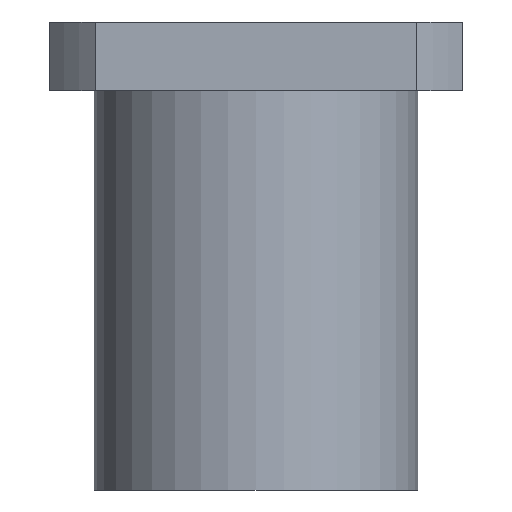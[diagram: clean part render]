
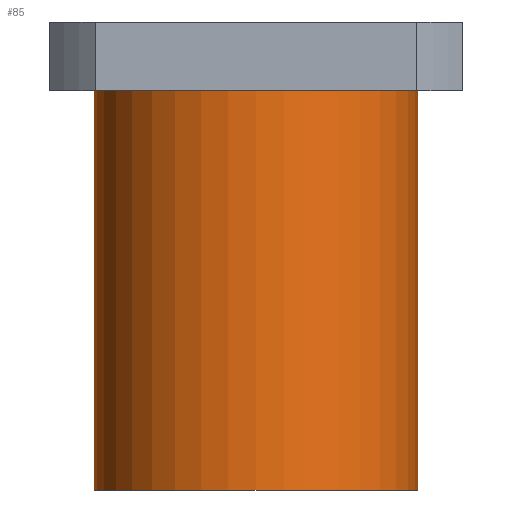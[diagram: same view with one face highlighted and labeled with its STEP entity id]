
A CAD part, front view. The second image highlights one B-rep face of the part: STEP entity #85.
In plain terms, the highlighted cylindrical face has radius 23.5 mm (diameter 47 mm), a partial arc.
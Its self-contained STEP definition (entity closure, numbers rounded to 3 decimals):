
#44=CARTESIAN_POINT('',(0.0,0.0,0.0));
#45=DIRECTION('',(0.0,0.0,1.0));
#46=DIRECTION('',(-1.0,0.0,0.0));
#47=AXIS2_PLACEMENT_3D('',#44,#45,#46);
#48=CYLINDRICAL_SURFACE('',#47,23.5);
#49=CARTESIAN_POINT('',(-23.5,0.,0.0));
#50=VERTEX_POINT('',#49);
#51=CARTESIAN_POINT('',(-23.5,0.,58.0));
#52=VERTEX_POINT('',#51);
#53=CARTESIAN_POINT('',(-23.5,0.,0.0));
#54=DIRECTION('',(0.0,0.0,1.0));
#55=VECTOR('',#54,58.0);
#56=LINE('',#53,#55);
#57=EDGE_CURVE('',#50,#52,#56,.T.);
#58=ORIENTED_EDGE('',*,*,#57,.F.);
#59=CARTESIAN_POINT('',(23.5,0.,0.0));
#60=VERTEX_POINT('',#59);
#61=CARTESIAN_POINT('',(0.0,0.0,0.0));
#62=DIRECTION('',(0.0,0.0,-1.0));
#63=DIRECTION('',(-1.0,0.0,0.0));
#64=AXIS2_PLACEMENT_3D('',#61,#62,#63);
#65=CIRCLE('',#64,23.5);
#66=EDGE_CURVE('',#60,#50,#65,.T.);
#67=ORIENTED_EDGE('',*,*,#66,.F.);
#68=CARTESIAN_POINT('',(23.5,0.,58.));
#69=VERTEX_POINT('',#68);
#70=CARTESIAN_POINT('',(23.5,0.,58.));
#71=DIRECTION('',(0.0,0.0,-1.0));
#72=VECTOR('',#71,58.);
#73=LINE('',#70,#72);
#74=EDGE_CURVE('',#69,#60,#73,.T.);
#75=ORIENTED_EDGE('',*,*,#74,.F.);
#76=CARTESIAN_POINT('',(0.0,0.0,58.0));
#77=DIRECTION('',(0.0,0.0,-1.0));
#78=DIRECTION('',(-1.0,0.0,0.0));
#79=AXIS2_PLACEMENT_3D('',#76,#77,#78);
#80=CIRCLE('',#79,23.5);
#81=EDGE_CURVE('',#69,#52,#80,.T.);
#82=ORIENTED_EDGE('',*,*,#81,.T.);
#83=EDGE_LOOP('',(#58,#67,#75,#82));
#84=FACE_OUTER_BOUND('',#83,.T.);
#85=ADVANCED_FACE('',(#84),#48,.T.);
